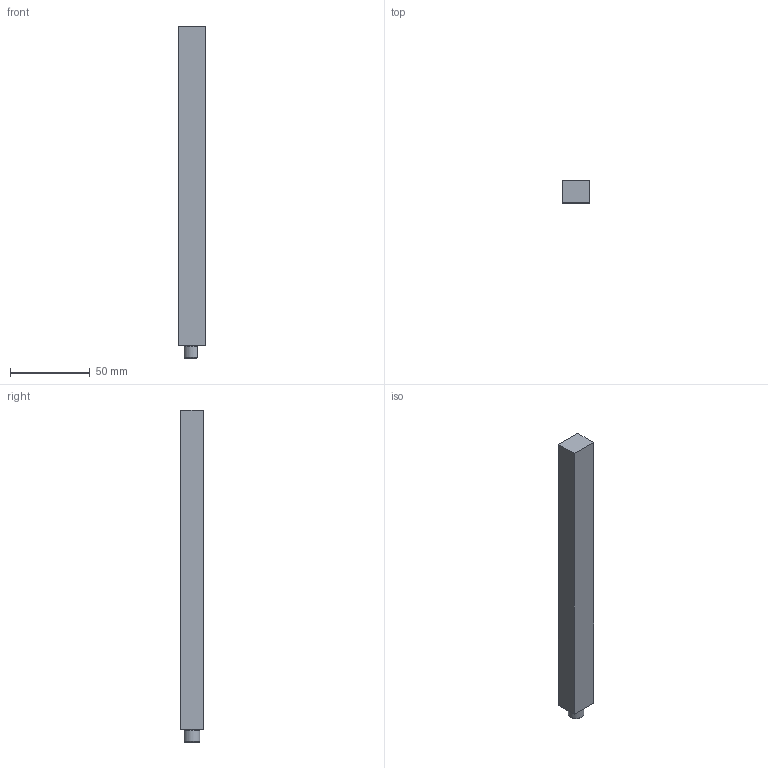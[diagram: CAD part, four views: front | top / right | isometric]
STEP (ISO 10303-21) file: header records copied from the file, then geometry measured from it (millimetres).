
FILE_DESCRIPTION (( 'STEP AP214' ), '1' );
FILE_NAME ('KKPHF Pin S_-_10-200.step', '2024-02-07T08:53:58', ( '' ), ( '' ), 'SwSTEP 2.0', 'SolidWorks 2020', '' );
FILE_SCHEMA (( 'AUTOMOTIVE_DESIGN' ));
Length unit declared in the file: millimetre
Products named in the file (1): KKPHF  Pin S_-_10-200
Bounding box: 17 x 14 x 207.9 mm (x, y, z)
Volume: 47981.9 mm3; surface area: 13269.2 mm2
Topology: 1 solids, 1 shells, 15 faces, 31 edges, 19 vertices
Faces by surface type: plane 9, cylinder 3, cone 2, torus 1
Full cylindrical faces by diameter (mm): 4.2 x1
Entity records: 425 total; most frequent: CARTESIAN_POINT 78, DIRECTION 62, ORIENTED_EDGE 56, EDGE_CURVE 28, AXIS2_PLACEMENT_3D 22, VERTEX_POINT 18, VECTOR 18, LINE 18
